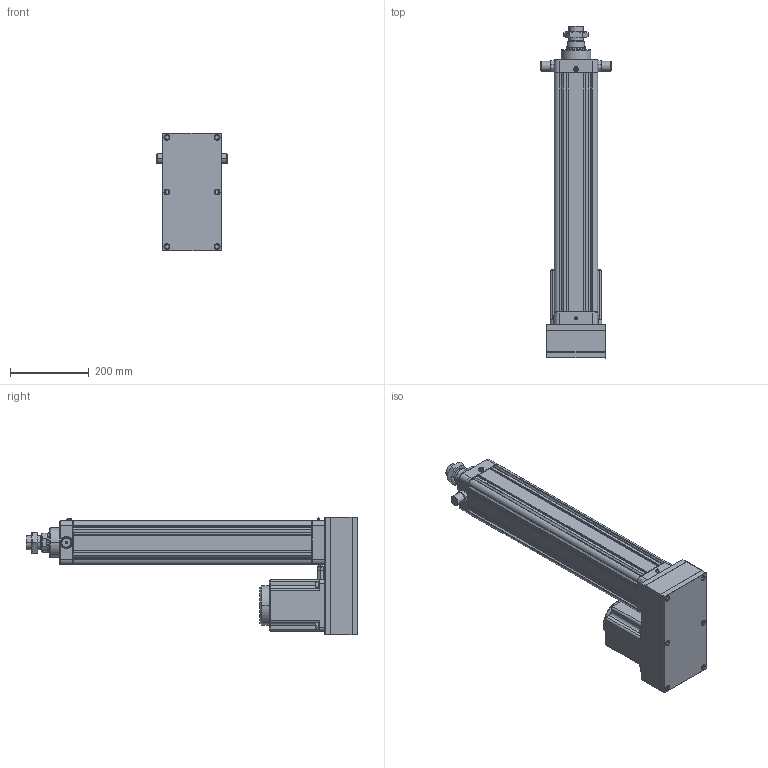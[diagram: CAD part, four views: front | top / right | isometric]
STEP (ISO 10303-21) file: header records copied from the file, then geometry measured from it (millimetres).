
FILE_DESCRIPTION((''),'2;1');
FILE_NAME('HE100-D-P_ASM','2020-05-11T',('ASUS20200'),(''),'CREO PARAMETRIC BY PTC INC, 2014190','CREO PARAMETRIC BY PTC INC, 2014190','');
FILE_SCHEMA(('CONFIG_CONTROL_DESIGN'));
Length unit declared in the file: millimetre
Products named in the file (24): HE100-D-P-001-X1; HE100-D-P-002-X1; HE100-D-P-003-X1; JDB506030; SLM-01; YZ-M6X1; HE100-100-D-P-X1_ASM; HE100-P-010-X1-130N; 130ST-M10010; HE100-P-009-X1-130N; HE100-P-013-X1-130N; TD-8; M8X35; M8X75; LM-M8-7-5; M10X1-25-40; LM-M10-30; LM-M10; HE100-D-P-005-X1; HE100-D-P-004-X1; HE80-D-P-008-X1; LGLM-M10-25; HE100-TC; HE100-D-P_ASM
Assembly tree (41 placements, depth 3):
  HE100-D-P_ASM
    HE100-100-D-P-X1_ASM
      HE100-D-P-001-X1
      HE100-D-P-002-X1
      HE100-D-P-003-X1
      JDB506030
      SLM-01
      YZ-M6X1
    HE100-P-010-X1-130N
    130ST-M10010
    HE100-P-009-X1-130N
    HE100-P-013-X1-130N
    TD-8  x4
    M8X35  x4
    M8X75  x6
    LM-M8-7-5  x4
    M10X1-25-40
    LM-M10-30
    LM-M10
    HE100-D-P-005-X1
    HE100-D-P-004-X1
    HE80-D-P-008-X1
    LGLM-M10-25  x4
    HE100-TC  x2
Bounding box: 180 x 844 x 300 mm (x, y, z)
Volume: 6800078.9 mm3; surface area: 1475427.3 mm2
Topology: 40 solids, 72 shells, 2232 faces, 5230 edges, 3136 vertices
Faces by surface type: plane 825, cone 701, cylinder 610, torus 66, sphere 26, bspline 4
Entity records: 52904 total; most frequent: CARTESIAN_POINT 10624, DIRECTION 9234, ORIENTED_EDGE 8242, EDGE_CURVE 4182, AXIS2_PLACEMENT_3D 3507, VERTEX_POINT 2518, VECTOR 2220, LINE 2220
